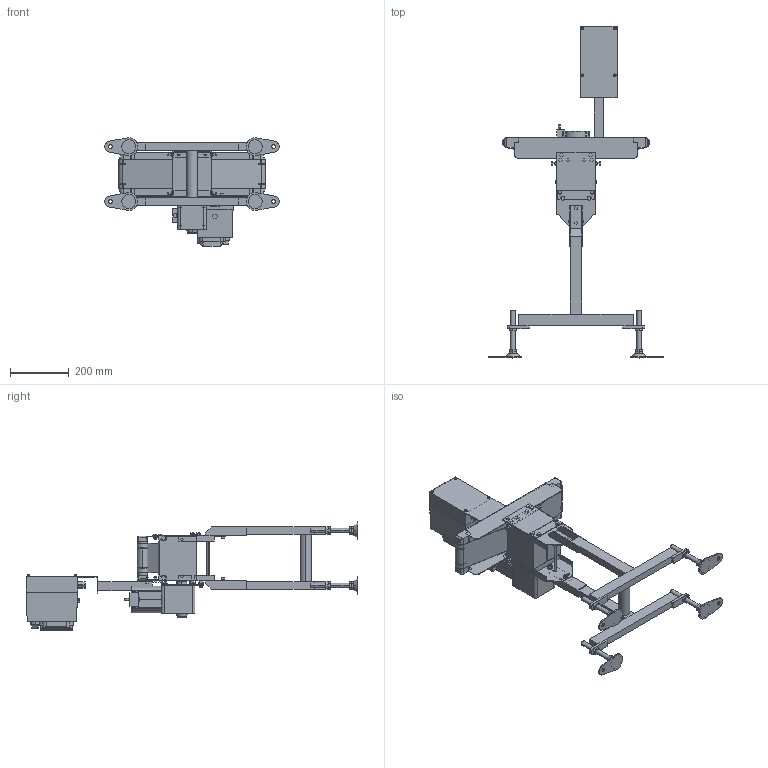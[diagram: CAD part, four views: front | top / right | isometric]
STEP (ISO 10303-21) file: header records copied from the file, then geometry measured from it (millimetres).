
FILE_DESCRIPTION (( 'STEP AP214' ), '1' );
FILE_NAME ('FSDHS-100-500-R.STEP', '2023-04-20T09:18:02', ( '' ), ( '' ), 'SwSTEP 2.0', 'SolidWorks 2017', '' );
FILE_SCHEMA (( 'AUTOMOTIVE_DESIGN' ));
Length unit declared in the file: millimetre
Products named in the file (1): FSDHS-100-500-R
Bounding box: 594 x 1131 x 369.99 mm (x, y, z)
Volume: 11052559.1 mm3; surface area: 1692349.2 mm2
Topology: 46 solids, 48 shells, 1758 faces, 4365 edges, 2866 vertices
Faces by surface type: plane 1175, cylinder 540, cone 29, bspline 14
Entity records: 73980 total; most frequent: CARTESIAN_POINT 11192, DIRECTION 8967, ORIENTED_EDGE 8726, EDGE_CURVE 4363, LINE 3103, VECTOR 3103, AXIS2_PLACEMENT_3D 2932, VERTEX_POINT 2866
